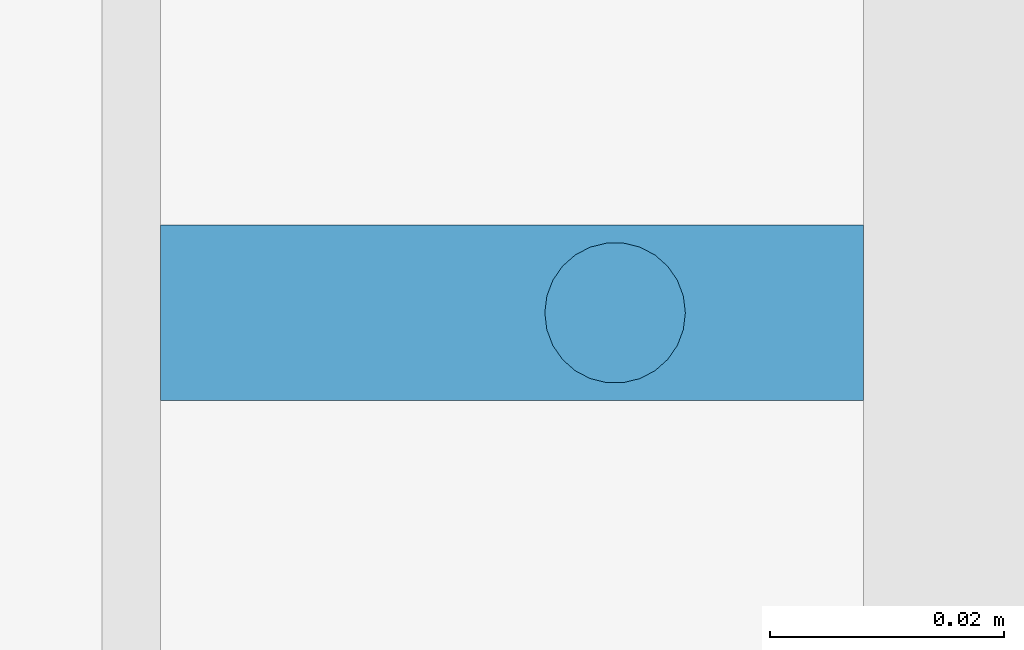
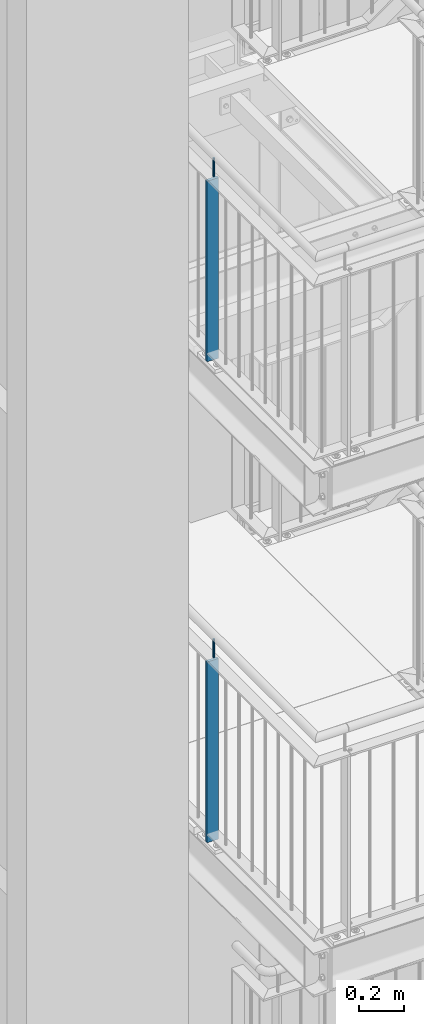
# One storey, part 18 of 825: 4 columns.
"""IFC2X3 building model written with IfcOpenShell, lengths in millimetres."""

import ifcopenshell
import ifcopenshell.guid

model = None  # the IFC model being written
_history = None  # IfcOwnerHistory: only IFC2X3 demands one
_inside = {}  # id of a spatial element -> (the spatial element, [elements in it])
_under = {}  # id of a project, library or spatial element -> (it, [spatial elements below it])
_declared = {}  # id of a project -> (the project, [libraries it declares])
_typed = {}  # id of a type object -> (the type object, [elements of that type])
_made_of = {}  # id of a material, layer set ... -> (it, [elements and type objects made of it])


def new_model(schema):
    """Start an empty IFC model of exactly this schema.

    Asked for "IFC4X3", IfcOpenShell would pick the latest addendum, in which some entities
    have other attributes; the version numbers below select the first issue.
    IFC2X3 requires an IfcOwnerHistory on every rooted entity: one is made here for all.
    """
    global model, _history
    if schema == "IFC4X3":
        model = ifcopenshell.file(schema_version=(4, 3, 0, 0))
    else:
        model = ifcopenshell.file(schema=schema)
    _inside.clear()
    _under.clear()
    _declared.clear()
    _typed.clear()
    _made_of.clear()
    _history = None
    if model.schema == "IFC2X3":
        org = make("IfcOrganization", Name="unknown")
        user = make(
            "IfcPersonAndOrganization",
            ThePerson=make("IfcPerson", FamilyName="unknown"),
            TheOrganization=org,
        )
        app = make(
            "IfcApplication",
            ApplicationDeveloper=org,
            Version="unknown",
            ApplicationFullName="unknown",
            ApplicationIdentifier="unknown",
        )
        _history = make(
            "IfcOwnerHistory",
            OwningUser=user,
            OwningApplication=app,
            ChangeAction="ADDED",
            CreationDate=0,
        )
    return model


def make(cls, **values):
    """One entity of the class cls with the attributes given. An attribute that is None is left unset."""
    return model.create_entity(
        cls, **{name: value for name, value in values.items() if value is not None}
    )


def entity(cls, *values):
    """Any entity or typed value of the class cls, its attributes in the order of the schema. None: left unset."""
    e = model.create_entity(cls)
    for i, value in enumerate(values):
        if value is not None:
            e[i] = value
    return e


def rooted(cls, **values):
    """An entity with a GlobalId (a new one), such as an element, a storey or a relation."""
    return make(cls, GlobalId=ifcopenshell.guid.new(), OwnerHistory=_history, **values)


def si_unit(unit_type, name, prefix=None):
    """IfcSIUnit, for example si_unit("LENGTHUNIT", "METRE", prefix="MILLI")."""
    return make("IfcSIUnit", UnitType=unit_type, Prefix=prefix, Name=name)


def converted_unit(unit_type, name, factor, base, dimensions=None, offset=None):
    """IfcConversionBasedUnit, such as the inch: factor (a typed value) times the base unit."""
    return make(
        "IfcConversionBasedUnit"
        if offset is None
        else "IfcConversionBasedUnitWithOffset",
        ConversionOffset=offset,
        Dimensions=None
        if dimensions is None
        else entity("IfcDimensionalExponents", *dimensions),
        UnitType=unit_type,
        Name=name,
        ConversionFactor=make(
            "IfcMeasureWithUnit", ValueComponent=factor, UnitComponent=base
        ),
    )


def assignment(units):
    """IfcUnitAssignment: the units of a project."""
    return None if units is None else make("IfcUnitAssignment", Units=units)


def point(xyz):
    """IfcCartesianPoint."""
    return None if xyz is None else make("IfcCartesianPoint", Coordinates=xyz)


def direction(xyz):
    """IfcDirection."""
    return None if xyz is None else make("IfcDirection", DirectionRatios=xyz)


def frame(location, z_axis=None, x_axis=None):
    """IfcAxis2Placement3D, a coordinate frame: its origin and axes. An axis left out is left unset."""
    return make(
        "IfcAxis2Placement3D",
        Location=point(location),
        Axis=direction(z_axis),
        RefDirection=direction(x_axis),
    )


def frame_2d(location, x_axis=None):
    """IfcAxis2Placement2D, a coordinate frame in the plane: its origin and x axis."""
    return make(
        "IfcAxis2Placement2D", Location=point(location), RefDirection=direction(x_axis)
    )


def origin():
    """The frame at (0, 0, 0) with its axes left unset."""
    return frame((0.0, 0.0, 0.0))


def origin_with_axes():
    """The frame at (0, 0, 0) with the z axis (0, 0, 1) and the x axis (1, 0, 0) written out."""
    return frame((0.0, 0.0, 0.0), z_axis=(0.0, 0.0, 1.0), x_axis=(1.0, 0.0, 0.0))


def origin_2d():
    """The frame at (0, 0) in the plane with its x axis left unset."""
    return frame_2d((0.0, 0.0))


def place(relative_to, where):
    """IfcLocalPlacement: puts the frame where relative to a parent placement (None: the world)."""
    return make(
        "IfcLocalPlacement", PlacementRelTo=relative_to, RelativePlacement=where
    )


def context(
    kind, dimensions, precision=None, world=None, true_north=None, identifier=None
):
    """IfcGeometricRepresentationContext, for example the 3D "Model" context."""
    return make(
        "IfcGeometricRepresentationContext",
        ContextIdentifier=identifier,
        ContextType=kind,
        CoordinateSpaceDimension=dimensions,
        Precision=precision,
        WorldCoordinateSystem=world,
        TrueNorth=true_north,
    )


def project(units=None, contexts=None):
    """IfcProject with its units and contexts."""
    return rooted(
        "IfcProject",
        Name="project",
        RepresentationContexts=contexts,
        UnitsInContext=assignment(units),
    )


def spatial(cls, under=None, at=None, **own):
    """A site, building, storey or space (cls), placed at a placement, below another one or the project."""
    s = rooted(cls, ObjectPlacement=at, **own)
    if under is not None:
        _under.setdefault(under.id(), (under, []))[1].append(s)
    return s


def profile(cls, at=None, kind="AREA", **sizes):
    """A parametric profile (cls). Its sizes go by their IFC names, for example OverallWidth=200.0."""
    return make(cls, ProfileType=kind, Position=at, **sizes)


def rectangle(**sizes):
    """IfcRectangleProfileDef."""
    return profile("IfcRectangleProfileDef", **sizes)


def circle(**sizes):
    """IfcCircleProfileDef."""
    return profile("IfcCircleProfileDef", **sizes)


def extrude(swept, where, along, depth):
    """IfcExtrudedAreaSolid: the profile swept, set in the frame where, extruded along a direction by depth."""
    return make(
        "IfcExtrudedAreaSolid",
        SweptArea=swept,
        Position=where,
        ExtrudedDirection=direction(along),
        Depth=depth,
    )


def clip(a, b, op="DIFFERENCE"):
    """IfcBooleanClippingResult: the solid a cut by the half space b."""
    return make(
        "IfcBooleanClippingResult", Operator=op, FirstOperand=a, SecondOperand=b
    )


def halfspace(plane, agree):
    """IfcHalfSpaceSolid: all space on one side of the plane z = 0 of the frame plane."""
    return make(
        "IfcHalfSpaceSolid",
        BaseSurface=make("IfcPlane", Position=plane),
        AgreementFlag=agree,
    )


def shape(context_of_items, identifier, shape_type, items):
    """IfcShapeRepresentation: the items that make up one representation, for example the "Body"."""
    return make(
        "IfcShapeRepresentation",
        ContextOfItems=context_of_items,
        RepresentationIdentifier=identifier,
        RepresentationType=shape_type,
        Items=items,
    )


def material(Name=None, Category=None):
    """IfcMaterial."""
    return make("IfcMaterial", Name=Name, Category=Category)


def made_of(thing, what):
    """Note that an element or type object is made of a material, layer set ...; save() writes the relation."""
    if what is not None:
        _made_of.setdefault(what.id(), (what, []))[1].append(thing)
    return thing


def element(
    cls,
    number,
    at=None,
    inside=None,
    cuts=None,
    type_object=None,
    material=None,
    context=None,
    identifier="Body",
    shape_type=None,
    held_by="IfcProductDefinitionShape",
    body=None,
    shapes=None,
    **own,
):
    """One element of the class cls, such as IfcWall. Its Tag is "e" and its number.

    at: its placement. inside: the storey or other place that contains it. cuts: it is an
    opening in that element (IfcRelVoidsElement). A single representation is given by context,
    identifier, shape_type and body (its items); several are given by shapes. held_by: the class
    of the entity that holds the representations. save() writes the other relations.
    """
    e = rooted(cls, Tag="e%d" % number, ObjectPlacement=at, **own)
    if body is not None:
        shapes = [shape(context, identifier, shape_type, body)]
    if shapes is not None:
        e.Representation = make(held_by, Representations=shapes)
    if inside is not None:
        _inside.setdefault(inside.id(), (inside, []))[1].append(e)
    if cuts is not None:
        rooted(
            "IfcRelVoidsElement", RelatingBuildingElement=cuts, RelatedOpeningElement=e
        )
    if type_object is not None:
        _typed.setdefault(type_object.id(), (type_object, []))[1].append(e)
    return made_of(e, material)


def aggregate(whole, parts):
    """IfcRelAggregates: a whole, such as a stair, and the parts it consists of."""
    return rooted("IfcRelAggregates", RelatingObject=whole, RelatedObjects=parts)


def save(model, path):
    """Write the relations noted so far, then the file.

    IfcRelAggregates (storeys below a building ...), IfcRelContainedInSpatialStructure (elements
    in a storey), IfcRelDefinesByType, IfcRelAssociatesMaterial and IfcRelDeclares: one each for
    every whole, place, type object, material and project.
    """
    for whole, parts in _under.values():
        aggregate(whole, parts)
    for where, things in _inside.values():
        rooted(
            "IfcRelContainedInSpatialStructure",
            RelatedElements=things,
            RelatingStructure=where,
        )
    for kind, things in _typed.values():
        rooted("IfcRelDefinesByType", RelatedObjects=things, RelatingType=kind)
    for what, things in _made_of.values():
        rooted("IfcRelAssociatesMaterial", RelatedObjects=things, RelatingMaterial=what)
    for by, libraries in _declared.values():
        rooted("IfcRelDeclares", RelatingContext=by, RelatedDefinitions=libraries)
    model.write(path)


model = new_model("IFC2X3")

# Units and contexts
model_context = context("Model", 3, precision=1e-09, world=origin_with_axes())
ifc_project = project(units=[si_unit("LENGTHUNIT", "METRE", prefix="MILLI"), si_unit("AREAUNIT", "SQUARE_METRE"), si_unit("VOLUMEUNIT", "CUBIC_METRE"), converted_unit("PLANEANGLEUNIT", "DEGREE", entity("IfcPlaneAngleMeasure", 0.01745329), si_unit("PLANEANGLEUNIT", "RADIAN"), dimensions=[0, 0, 0, 0, 0, 0, 0])], contexts=[model_context])

# Site, building, storey
site_placement = place(None, origin_with_axes())
site = spatial("IfcSite", under=ifc_project, at=site_placement, Name="Cnopf'sche Kinderklinik", CompositionType="ELEMENT")
building_placement = place(site_placement, origin_with_axes())
building = spatial("IfcBuilding", under=site, at=building_placement, Name="Struktur 1", CompositionType="ELEMENT")
storey_placement = place(building_placement, origin_with_axes())
storey = spatial("IfcBuildingStorey", under=building, at=storey_placement, Name="Default Storey", CompositionType="ELEMENT", Elevation=0.0)

# Columns
ifc_material = material(Name="S235JR")
column_1_placement = place(None, frame((3271.713402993, 5461.738971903, 8359.723292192), z_axis=(0.0, 0.0, 1.0), x_axis=(0.0, 1.0, 0.0)))
element("IfcColumn", 1, at=column_1_placement, inside=storey, material=ifc_material, Name="Railing_Post_Landing#14", ObjectType="Railing_Post_Landing#14", context=model_context, shape_type="Clipping", body=[
    clip(clip(extrude(rectangle(XDim=15.0, YDim=60.0, at=origin_2d()), origin(), (0.0, 0.0, -1.0), 1070.646584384), halfspace(frame((-5461.738971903, 3271.713402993, -1019.722292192), z_axis=(0.0, 0.0, 1.0), x_axis=(0.0, -1.0, 0.0)), True)), halfspace(frame((-5461.738971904, 3271.713402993, -30.924292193), z_axis=(0.0, 0.0, -1.0), x_axis=(0.0, 1.0, 0.0)), True)),
])
column_2_placement = place(None, frame((3280.513402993, 5461.738971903, 8447.285281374), z_axis=(0.0, 0.0, 1.0), x_axis=(1.0, 0.0, 0.0)))
element("IfcColumn", 2, at=column_2_placement, inside=storey, material=ifc_material, Name="Bar#14", ObjectType="Bar#14", context=model_context, shape_type="Clipping", body=[
    clip(clip(extrude(circle(Radius=6.0, at=origin_2d()), origin(), (0.0, 0.0, -1.0), 116.970562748), halfspace(frame((-3280.513402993, -5461.738971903, -8.486281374), z_axis=(0.0, 0.0, -1.0), x_axis=(-1.0, 0.0, 0.0)), True)), halfspace(frame((-3280.513402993, -5461.738971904, -108.484281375), z_axis=(0.0, 0.0, 1.0), x_axis=(1.0, 0.0, 0.0)), True)),
])
column_3_placement = place(None, frame((3271.713402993, 5461.738971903, 10991.723292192), z_axis=(0.0, 0.0, 1.0), x_axis=(0.0, 1.0, 0.0)))
element("IfcColumn", 3, at=column_3_placement, inside=storey, material=ifc_material, Name="Railing_Post_Landing#14", ObjectType="Railing_Post_Landing#14", context=model_context, shape_type="Clipping", body=[
    clip(clip(extrude(rectangle(XDim=15.0, YDim=60.0, at=origin_2d()), origin(), (0.0, 0.0, -1.0), 1070.646584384), halfspace(frame((-5461.738971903, 3271.713402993, -1019.722292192), z_axis=(0.0, 0.0, 1.0), x_axis=(0.0, -1.0, 0.0)), True)), halfspace(frame((-5461.738971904, 3271.713402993, -30.924292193), z_axis=(0.0, 0.0, -1.0), x_axis=(0.0, 1.0, 0.0)), True)),
])
column_4_placement = place(None, frame((3280.513402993, 5461.738971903, 11079.285281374), z_axis=(0.0, 0.0, 1.0), x_axis=(1.0, 0.0, 0.0)))
element("IfcColumn", 4, at=column_4_placement, inside=storey, material=ifc_material, Name="Bar#14", ObjectType="Bar#14", context=model_context, shape_type="Clipping", body=[
    clip(clip(extrude(circle(Radius=6.0, at=origin_2d()), origin(), (0.0, 0.0, -1.0), 116.970562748), halfspace(frame((-3280.513402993, -5461.738971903, -8.486281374), z_axis=(0.0, 0.0, -1.0), x_axis=(-1.0, 0.0, 0.0)), True)), halfspace(frame((-3280.513402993, -5461.738971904, -108.484281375), z_axis=(0.0, 0.0, 1.0), x_axis=(1.0, 0.0, 0.0)), True)),
])

save(model, "model.ifc")
